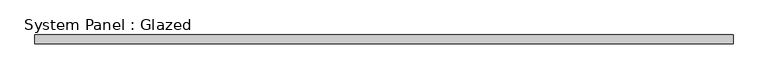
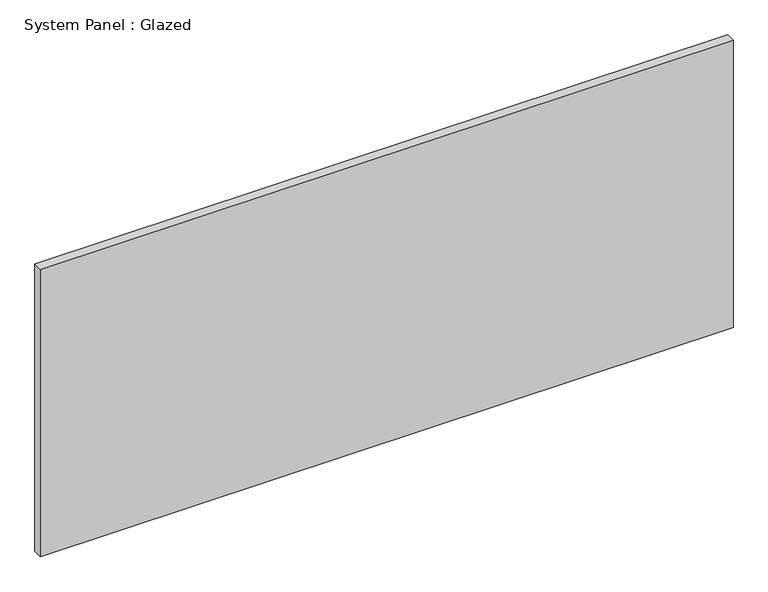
"""IFC4 building model written with IfcOpenShell, lengths in millimetres: plate geometry, System Panel : Glazed."""

from ifc_helpers import new_model, si_unit, origin, origin_with_axes, place, context, project, spatial, polyline, outline, extrude, source, transform, mapped, element, save


def system_panel_glazed_4d12c0f7(model_context):
    return source(origin(), model_context, "Body", "SweptSolid", [
        extrude(outline(polyline([(984.25, 19.05), (-984.25, 19.05), (-984.25, 44.45), (984.25, 44.45), (984.25, 19.05)])), origin_with_axes(), (0.0, 0.0, 1.0), 863.6),
    ])


if __name__ == "__main__":
    model = new_model("IFC4")
    model_context = context("Model", 3, world=origin())
    ifc_project = project(units=[si_unit("LENGTHUNIT", "METRE", prefix="MILLI")], contexts=[model_context])
    site = spatial("IfcSite", under=ifc_project)
    building = spatial("IfcBuilding", under=site)
    placement = place(None, origin())
    system_panel_glazed_shape = system_panel_glazed_4d12c0f7(model_context)
    element("IfcPlate", 1, ObjectType="System Panel : Glazed", at=placement, inside=building, context=model_context, shape_type="MappedRepresentation", body=[
        mapped(system_panel_glazed_shape, transform((0.0, 0.0, 0.0), x_axis=(1.0, 0.0, 0.0), y_axis=(0.0, 1.0, 0.0), z_axis=(0.0, 0.0, 1.0))),
    ])
    save(model, "model.ifc")
